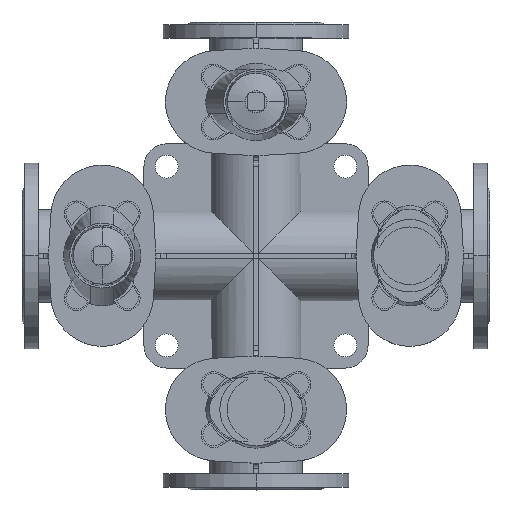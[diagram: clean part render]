
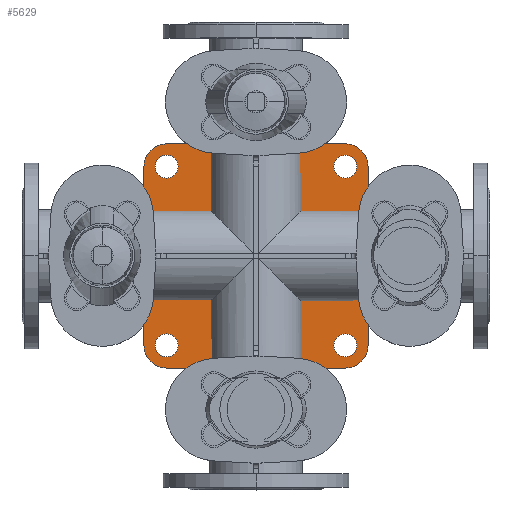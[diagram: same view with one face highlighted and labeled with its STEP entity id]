
A CAD part, top view. The second image highlights one B-rep face of the part: STEP entity #5629.
In plain terms, the highlighted planar face has unit normal (0, 0, 1).
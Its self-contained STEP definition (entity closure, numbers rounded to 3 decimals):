
#5629=ADVANCED_FACE('',(#10948,#10949,#10950,#10951,#10952),#10953,.F.);
#10948=FACE_BOUND('',#17965,.T.);
#10949=FACE_BOUND('',#17966,.T.);
#10950=FACE_BOUND('',#17967,.T.);
#10951=FACE_BOUND('',#17968,.T.);
#10952=FACE_OUTER_BOUND('',#17969,.T.);
#10953=PLANE('',#17970);
#17965=EDGE_LOOP('',(#29293,#29294));
#17966=EDGE_LOOP('',(#29295,#29296));
#17967=EDGE_LOOP('',(#29297,#29298));
#17968=EDGE_LOOP('',(#29299,#29300));
#17969=EDGE_LOOP('',(#29301,#29302,#29303,#29304,#29305,#29306,#29307,#29308));
#17970=AXIS2_PLACEMENT_3D('',#29309,#29310,#29311);
#29293=ORIENTED_EDGE('',*,*,#38342,.T.);
#29294=ORIENTED_EDGE('',*,*,#38507,.T.);
#29295=ORIENTED_EDGE('',*,*,#39382,.T.);
#29296=ORIENTED_EDGE('',*,*,#39767,.T.);
#29297=ORIENTED_EDGE('',*,*,#39836,.T.);
#29298=ORIENTED_EDGE('',*,*,#39837,.T.);
#29299=ORIENTED_EDGE('',*,*,#39838,.T.);
#29300=ORIENTED_EDGE('',*,*,#39839,.T.);
#29301=ORIENTED_EDGE('',*,*,#39840,.F.);
#29302=ORIENTED_EDGE('',*,*,#36208,.F.);
#29303=ORIENTED_EDGE('',*,*,#39841,.F.);
#29304=ORIENTED_EDGE('',*,*,#39842,.F.);
#29305=ORIENTED_EDGE('',*,*,#37402,.F.);
#29306=ORIENTED_EDGE('',*,*,#36336,.F.);
#29307=ORIENTED_EDGE('',*,*,#39843,.F.);
#29308=ORIENTED_EDGE('',*,*,#38766,.F.);
#29309=CARTESIAN_POINT('',(277.5,0.0,15.0));
#29310=DIRECTION('',(0.0,0.0,-1.0));
#29311=DIRECTION('',(-1.0,0.0,0.0));
#36208=EDGE_CURVE('',#42693,#42694,#42695,.T.);
#36336=EDGE_CURVE('',#42914,#42915,#42916,.T.);
#37402=EDGE_CURVE('',#42915,#44682,#44683,.T.);
#38342=EDGE_CURVE('',#46118,#46123,#46125,.T.);
#38507=EDGE_CURVE('',#46123,#46118,#46378,.T.);
#38766=EDGE_CURVE('',#46755,#46756,#46757,.T.);
#39382=EDGE_CURVE('',#47592,#47594,#47596,.T.);
#39767=EDGE_CURVE('',#47594,#47592,#48100,.T.);
#39836=EDGE_CURVE('',#48193,#48194,#48195,.T.);
#39837=EDGE_CURVE('',#48194,#48193,#48196,.T.);
#39838=EDGE_CURVE('',#48197,#48198,#48199,.T.);
#39839=EDGE_CURVE('',#48198,#48197,#48200,.T.);
#39840=EDGE_CURVE('',#42694,#46755,#48201,.T.);
#39841=EDGE_CURVE('',#48202,#42693,#48203,.T.);
#39842=EDGE_CURVE('',#44682,#48202,#48204,.T.);
#39843=EDGE_CURVE('',#46756,#42914,#48205,.T.);
#42693=VERTEX_POINT('',#51589);
#42694=VERTEX_POINT('',#51590);
#42695=CIRCLE('',#51591,27.0);
#42914=VERTEX_POINT('',#51862);
#42915=VERTEX_POINT('',#51863);
#42916=CIRCLE('',#51864,27.0);
#44682=VERTEX_POINT('',#54179);
#44683=LINE('',#54180,#54181);
#46118=VERTEX_POINT('',#56053);
#46123=VERTEX_POINT('',#56059);
#46125=CIRCLE('',#56062,13.5);
#46378=CIRCLE('',#56384,13.5);
#46755=VERTEX_POINT('',#56885);
#46756=VERTEX_POINT('',#56886);
#46757=CIRCLE('',#56887,27.0);
#47592=VERTEX_POINT('',#57993);
#47594=VERTEX_POINT('',#57996);
#47596=CIRCLE('',#57999,13.5);
#48100=CIRCLE('',#58658,13.5);
#48193=VERTEX_POINT('',#58777);
#48194=VERTEX_POINT('',#58778);
#48195=CIRCLE('',#58779,13.5);
#48196=CIRCLE('',#58780,13.5);
#48197=VERTEX_POINT('',#58781);
#48198=VERTEX_POINT('',#58782);
#48199=CIRCLE('',#58783,13.5);
#48200=CIRCLE('',#58784,13.5);
#48201=LINE('',#58785,#58786);
#48202=VERTEX_POINT('',#58787);
#48203=LINE('',#58788,#58789);
#48204=CIRCLE('',#58790,27.0);
#48205=LINE('',#58791,#58792);
#51589=CARTESIAN_POINT('',(410.5,-106.0,15.0));
#51590=CARTESIAN_POINT('',(383.5,-133.0,15.0));
#51591=AXIS2_PLACEMENT_3D('',#61962,#61963,#61964);
#51862=CARTESIAN_POINT('',(144.5,106.0,15.0));
#51863=CARTESIAN_POINT('',(171.5,133.0,15.0));
#51864=AXIS2_PLACEMENT_3D('',#62164,#62165,#62166);
#54179=CARTESIAN_POINT('',(383.5,133.0,15.0));
#54180=CARTESIAN_POINT('',(171.5,133.0,15.0));
#54181=VECTOR('',#63556,1.0);
#56053=CARTESIAN_POINT('',(397.0,-106.0,15.0));
#56059=CARTESIAN_POINT('',(370.0,-106.0,15.0));
#56062=AXIS2_PLACEMENT_3D('',#64836,#64837,#64838);
#56384=AXIS2_PLACEMENT_3D('',#65073,#65074,#65075);
#56885=CARTESIAN_POINT('',(171.5,-133.0,15.0));
#56886=CARTESIAN_POINT('',(144.5,-106.0,15.0));
#56887=AXIS2_PLACEMENT_3D('',#65404,#65405,#65406);
#57993=CARTESIAN_POINT('',(185.0,-106.0,15.0));
#57996=CARTESIAN_POINT('',(158.0,-106.0,15.0));
#57999=AXIS2_PLACEMENT_3D('',#66121,#66122,#66123);
#58658=AXIS2_PLACEMENT_3D('',#66588,#66589,#66590);
#58777=CARTESIAN_POINT('',(185.0,106.0,15.0));
#58778=CARTESIAN_POINT('',(158.0,106.0,15.0));
#58779=AXIS2_PLACEMENT_3D('',#66683,#66684,#66685);
#58780=AXIS2_PLACEMENT_3D('',#66686,#66687,#66688);
#58781=CARTESIAN_POINT('',(397.0,106.0,15.0));
#58782=CARTESIAN_POINT('',(370.0,106.0,15.0));
#58783=AXIS2_PLACEMENT_3D('',#66689,#66690,#66691);
#58784=AXIS2_PLACEMENT_3D('',#66692,#66693,#66694);
#58785=CARTESIAN_POINT('',(383.5,-133.0,15.0));
#58786=VECTOR('',#66695,1.0);
#58787=CARTESIAN_POINT('',(410.5,106.0,15.0));
#58788=CARTESIAN_POINT('',(410.5,106.0,15.0));
#58789=VECTOR('',#66696,1.0);
#58790=AXIS2_PLACEMENT_3D('',#66697,#66698,#66699);
#58791=CARTESIAN_POINT('',(144.5,-106.0,15.0));
#58792=VECTOR('',#66700,1.0);
#61962=CARTESIAN_POINT('',(383.5,-106.0,15.0));
#61963=DIRECTION('',(0.0,0.0,-1.0));
#61964=DIRECTION('',(-1.0,0.0,0.0));
#62164=CARTESIAN_POINT('',(171.5,106.0,15.0));
#62165=DIRECTION('',(0.0,0.0,-1.0));
#62166=DIRECTION('',(-1.0,0.0,0.0));
#63556=DIRECTION('',(1.0,0.0,0.0));
#64836=CARTESIAN_POINT('',(383.5,-106.0,15.0));
#64837=DIRECTION('',(0.0,0.0,-1.0));
#64838=DIRECTION('',(1.0,0.0,0.0));
#65073=CARTESIAN_POINT('',(383.5,-106.0,15.0));
#65074=DIRECTION('',(0.0,0.0,-1.0));
#65075=DIRECTION('',(1.0,0.0,0.0));
#65404=CARTESIAN_POINT('',(171.5,-106.0,15.0));
#65405=DIRECTION('',(0.0,0.0,-1.0));
#65406=DIRECTION('',(-1.0,0.0,0.0));
#66121=CARTESIAN_POINT('',(171.5,-106.0,15.0));
#66122=DIRECTION('',(0.0,0.0,-1.0));
#66123=DIRECTION('',(1.0,0.0,0.0));
#66588=CARTESIAN_POINT('',(171.5,-106.0,15.0));
#66589=DIRECTION('',(0.0,0.0,-1.0));
#66590=DIRECTION('',(1.0,0.0,0.0));
#66683=CARTESIAN_POINT('',(171.5,106.0,15.0));
#66684=DIRECTION('',(0.0,0.0,-1.0));
#66685=DIRECTION('',(1.0,0.0,0.0));
#66686=CARTESIAN_POINT('',(171.5,106.0,15.0));
#66687=DIRECTION('',(0.0,0.0,-1.0));
#66688=DIRECTION('',(1.0,0.0,0.0));
#66689=CARTESIAN_POINT('',(383.5,106.0,15.0));
#66690=DIRECTION('',(0.0,0.0,-1.0));
#66691=DIRECTION('',(1.0,0.0,0.0));
#66692=CARTESIAN_POINT('',(383.5,106.0,15.0));
#66693=DIRECTION('',(0.0,0.0,-1.0));
#66694=DIRECTION('',(1.0,0.0,0.0));
#66695=DIRECTION('',(-1.0,0.0,0.0));
#66696=DIRECTION('',(0.0,-1.0,0.0));
#66697=CARTESIAN_POINT('',(383.5,106.0,15.0));
#66698=DIRECTION('',(0.0,0.0,-1.0));
#66699=DIRECTION('',(-1.0,0.0,0.0));
#66700=DIRECTION('',(0.0,1.0,0.0));
